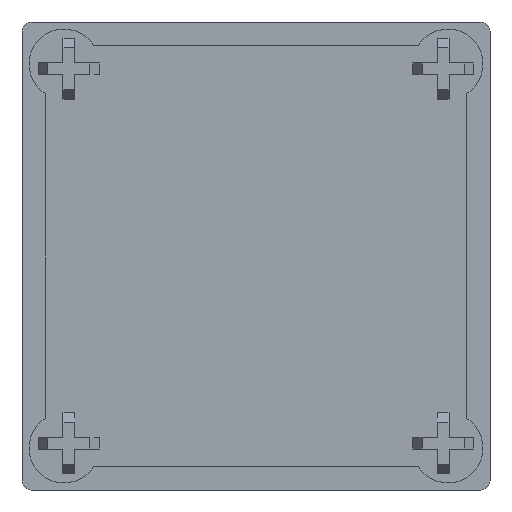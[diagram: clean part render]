
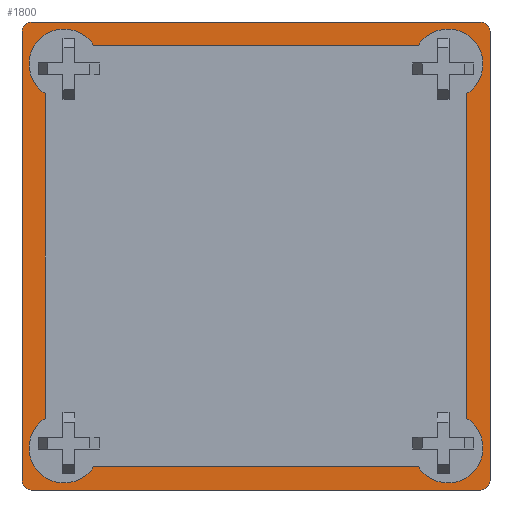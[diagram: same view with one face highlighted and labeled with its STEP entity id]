
A CAD part, front view. The second image highlights one B-rep face of the part: STEP entity #1800.
In plain terms, the highlighted planar face has unit normal (0, -1, 0).
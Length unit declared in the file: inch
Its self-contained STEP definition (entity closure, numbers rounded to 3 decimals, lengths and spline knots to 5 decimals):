
#31=FACE_BOUND('',#250,.T.);
#32=CIRCLE('',#1896,0.11811);
#34=CIRCLE('',#1900,0.11811);
#36=CIRCLE('',#1904,0.11811);
#38=CIRCLE('',#1908,0.11811);
#44=CIRCLE('',#1930,0.0315);
#45=CIRCLE('',#1933,0.0315);
#46=CIRCLE('',#1936,0.0315);
#47=CIRCLE('',#1937,0.0315);
#150=FACE_OUTER_BOUND('',#249,.T.);
#249=EDGE_LOOP('',(#1599,#1600,#1601,#1602,#1603,#1604,#1605,#1606));
#250=EDGE_LOOP('',(#1607,#1608,#1609,#1610,#1611,#1612,#1613,#1614));
#449=LINE('',#2802,#677);
#453=LINE('',#2814,#681);
#457=LINE('',#2826,#685);
#461=LINE('',#2837,#689);
#472=LINE('',#3000,#700);
#476=LINE('',#3009,#704);
#478=LINE('',#3017,#706);
#479=LINE('',#3021,#707);
#677=VECTOR('',#2282,0.3937);
#681=VECTOR('',#2294,0.3937);
#685=VECTOR('',#2306,0.3937);
#689=VECTOR('',#2318,0.3937);
#700=VECTOR('',#2365,0.3937);
#704=VECTOR('',#2375,0.3937);
#706=VECTOR('',#2385,0.3937);
#707=VECTOR('',#2388,0.3937);
#839=VERTEX_POINT('',#2792);
#840=VERTEX_POINT('',#2793);
#843=VERTEX_POINT('',#2801);
#845=VERTEX_POINT('',#2807);
#847=VERTEX_POINT('',#2813);
#849=VERTEX_POINT('',#2819);
#851=VERTEX_POINT('',#2825);
#853=VERTEX_POINT('',#2831);
#867=VERTEX_POINT('',#2997);
#868=VERTEX_POINT('',#2999);
#869=VERTEX_POINT('',#3003);
#870=VERTEX_POINT('',#3007);
#871=VERTEX_POINT('',#3011);
#872=VERTEX_POINT('',#3016);
#873=VERTEX_POINT('',#3018);
#874=VERTEX_POINT('',#3020);
#1067=EDGE_CURVE('',#839,#840,#32,.T.);
#1071=EDGE_CURVE('',#843,#839,#449,.T.);
#1074=EDGE_CURVE('',#845,#843,#34,.T.);
#1077=EDGE_CURVE('',#847,#845,#453,.T.);
#1080=EDGE_CURVE('',#849,#847,#36,.T.);
#1083=EDGE_CURVE('',#851,#849,#457,.T.);
#1086=EDGE_CURVE('',#853,#851,#38,.T.);
#1089=EDGE_CURVE('',#840,#853,#461,.T.);
#1112=EDGE_CURVE('',#868,#867,#472,.T.);
#1115=EDGE_CURVE('',#869,#867,#44,.T.);
#1117=EDGE_CURVE('',#869,#870,#476,.T.);
#1119=EDGE_CURVE('',#871,#870,#45,.T.);
#1120=EDGE_CURVE('',#871,#872,#478,.T.);
#1121=EDGE_CURVE('',#873,#872,#46,.T.);
#1122=EDGE_CURVE('',#873,#874,#479,.T.);
#1123=EDGE_CURVE('',#868,#874,#47,.T.);
#1599=ORIENTED_EDGE('',*,*,#1119,.F.);
#1600=ORIENTED_EDGE('',*,*,#1120,.T.);
#1601=ORIENTED_EDGE('',*,*,#1121,.F.);
#1602=ORIENTED_EDGE('',*,*,#1122,.T.);
#1603=ORIENTED_EDGE('',*,*,#1123,.F.);
#1604=ORIENTED_EDGE('',*,*,#1112,.T.);
#1605=ORIENTED_EDGE('',*,*,#1115,.F.);
#1606=ORIENTED_EDGE('',*,*,#1117,.T.);
#1607=ORIENTED_EDGE('',*,*,#1067,.T.);
#1608=ORIENTED_EDGE('',*,*,#1089,.T.);
#1609=ORIENTED_EDGE('',*,*,#1086,.T.);
#1610=ORIENTED_EDGE('',*,*,#1083,.T.);
#1611=ORIENTED_EDGE('',*,*,#1080,.T.);
#1612=ORIENTED_EDGE('',*,*,#1077,.T.);
#1613=ORIENTED_EDGE('',*,*,#1074,.T.);
#1614=ORIENTED_EDGE('',*,*,#1071,.T.);
#1707=PLANE('',#1935);
#1800=ADVANCED_FACE('',(#150,#31),#1707,.T.);
#1896=AXIS2_PLACEMENT_3D('',#2794,#2274,#2275);
#1900=AXIS2_PLACEMENT_3D('',#2808,#2287,#2288);
#1904=AXIS2_PLACEMENT_3D('',#2820,#2299,#2300);
#1908=AXIS2_PLACEMENT_3D('',#2832,#2311,#2312);
#1930=AXIS2_PLACEMENT_3D('',#3005,#2370,#2371);
#1933=AXIS2_PLACEMENT_3D('',#3013,#2379,#2380);
#1935=AXIS2_PLACEMENT_3D('',#3015,#2383,#2384);
#1936=AXIS2_PLACEMENT_3D('',#3019,#2386,#2387);
#1937=AXIS2_PLACEMENT_3D('',#3022,#2389,#2390);
#2274=DIRECTION('center_axis',(0.,1.,0.));
#2275=DIRECTION('ref_axis',(0.846,0.,0.533));
#2282=DIRECTION('',(0.,0.,-1.));
#2287=DIRECTION('center_axis',(0.,1.,0.));
#2288=DIRECTION('ref_axis',(-0.533,0.,0.846));
#2294=DIRECTION('',(1.,0.,0.));
#2299=DIRECTION('center_axis',(0.,1.,0.));
#2300=DIRECTION('ref_axis',(-0.846,0.,-0.533));
#2306=DIRECTION('',(0.,0.,1.));
#2311=DIRECTION('center_axis',(0.,1.,0.));
#2312=DIRECTION('ref_axis',(0.533,0.,-0.846));
#2318=DIRECTION('',(-1.,0.,0.));
#2365=DIRECTION('',(0.,0.,-1.));
#2370=DIRECTION('center_axis',(0.,1.,0.));
#2371=DIRECTION('ref_axis',(-0.707,0.,-0.707));
#2375=DIRECTION('',(1.,0.,0.));
#2379=DIRECTION('center_axis',(0.,1.,0.));
#2380=DIRECTION('ref_axis',(0.707,0.,-0.707));
#2383=DIRECTION('center_axis',(0.,-1.,0.));
#2384=DIRECTION('ref_axis',(0.,0.,-1.));
#2385=DIRECTION('',(0.,0.,1.));
#2386=DIRECTION('center_axis',(0.,1.,0.));
#2387=DIRECTION('ref_axis',(0.707,0.,0.707));
#2388=DIRECTION('',(-1.,0.,0.));
#2389=DIRECTION('center_axis',(0.,1.,0.));
#2390=DIRECTION('ref_axis',(-0.707,0.,0.707));
#2792=CARTESIAN_POINT('',(0.70866,-0.05906,-0.54576));
#2793=CARTESIAN_POINT('',(0.54576,-0.05906,-0.70866));
#2794=CARTESIAN_POINT('Origin',(0.64567,-0.05906,-0.64567));
#2801=CARTESIAN_POINT('',(0.70866,-0.05906,0.54576));
#2802=CARTESIAN_POINT('',(0.70866,-0.05906,0.27288));
#2807=CARTESIAN_POINT('',(0.54576,-0.05906,0.70866));
#2808=CARTESIAN_POINT('Origin',(0.64567,-0.05906,0.64567));
#2813=CARTESIAN_POINT('',(-0.54576,-0.05906,0.70866));
#2814=CARTESIAN_POINT('',(-0.27288,-0.05906,0.70866));
#2819=CARTESIAN_POINT('',(-0.70866,-0.05906,0.54576));
#2820=CARTESIAN_POINT('Origin',(-0.64567,-0.05906,
0.64567));
#2825=CARTESIAN_POINT('',(-0.70866,-0.05906,-0.54576));
#2826=CARTESIAN_POINT('',(-0.70866,-0.05906,-0.27288));
#2831=CARTESIAN_POINT('',(-0.54576,-0.05906,-0.70866));
#2832=CARTESIAN_POINT('Origin',(-0.64567,-0.05906,
-0.64567));
#2837=CARTESIAN_POINT('',(0.27288,-0.05906,-0.70866));
#2997=CARTESIAN_POINT('',(-0.7874,-0.05906,-0.75591));
#2999=CARTESIAN_POINT('',(-0.7874,-0.05906,0.75591));
#3000=CARTESIAN_POINT('',(-0.7874,-0.05906,-0.7874));
#3003=CARTESIAN_POINT('',(-0.75591,-0.05906,-0.7874));
#3005=CARTESIAN_POINT('Origin',(-0.75591,-0.05906,
-0.75591));
#3007=CARTESIAN_POINT('',(0.75591,-0.05906,-0.7874));
#3009=CARTESIAN_POINT('',(0.7874,-0.05906,-0.7874));
#3011=CARTESIAN_POINT('',(0.7874,-0.05906,-0.75591));
#3013=CARTESIAN_POINT('Origin',(0.75591,-0.05906,-0.75591));
#3015=CARTESIAN_POINT('Origin',(0.,-0.05906,0.));
#3016=CARTESIAN_POINT('',(0.7874,-0.05906,0.75591));
#3017=CARTESIAN_POINT('',(0.7874,-0.05906,0.7874));
#3018=CARTESIAN_POINT('',(0.75591,-0.05906,0.7874));
#3019=CARTESIAN_POINT('Origin',(0.75591,-0.05906,0.75591));
#3020=CARTESIAN_POINT('',(-0.75591,-0.05906,0.7874));
#3021=CARTESIAN_POINT('',(-0.7874,-0.05906,0.7874));
#3022=CARTESIAN_POINT('Origin',(-0.75591,-0.05906,
0.75591));
